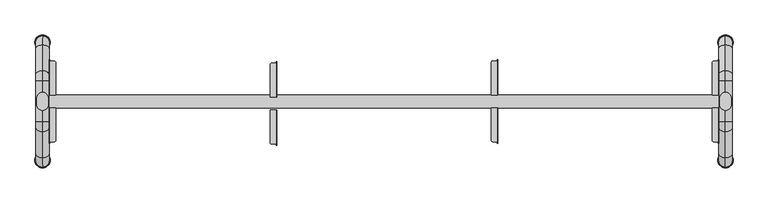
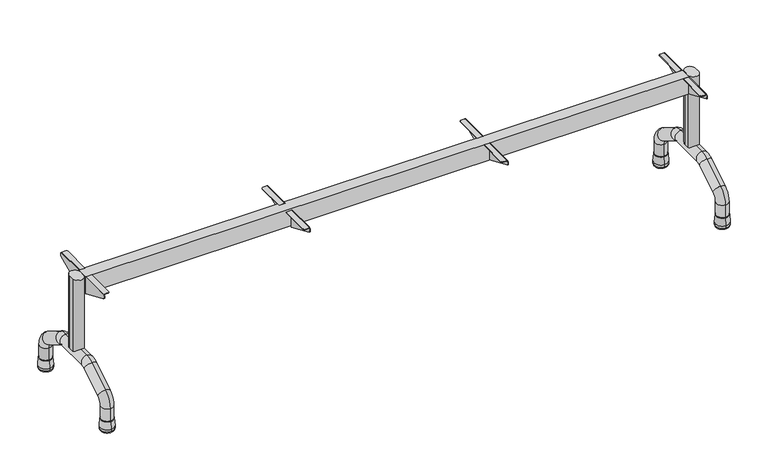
"""IFC4 building model written with IfcOpenShell, lengths in millimetres: furniture geometry, Banco para refeitório : Banco para refeitório 220x30cm cód 40472.6."""

from ifc_helpers import new_model, si_unit, point, frame, frame_2d, origin, place, context, project, spatial, polyline, circle_curve, ellipse_curve, trimmed, segment, composite_curve, outline, extrude, source, transform, mapped, element, save
from ifc_brep_helpers import plane_surface, cylinder_surface, revolved_surface, advanced_brep


def furniture_1bd29a56(model_context):
    return source(origin(), model_context, "Body", "SolidModel", [
        extrude(outline(composite_curve([segment(trimmed(circle_curve(frame_2d((-1040.0, -9.5)), 18.0), [point((-1022.0, -9.5))], [point((-1058.0, -9.5))], False, "CARTESIAN"), True, "CONTINUOUS"), segment(polyline([(-1058.0, -9.5), (-1058.0, 9.5)]), True, "CONTINUOUS"), segment(trimmed(circle_curve(frame_2d((-1040.0, 9.5)), 18.0), [point((-1058.0, 9.5))], [point((-1022.0, 9.5))], False, "CARTESIAN"), True, "CONTINUOUS"), segment(polyline([(-1022.0, 9.5), (-1022.0, -9.5)]), True, "CONTINUOUS")], self_intersect=False)), frame((0.0, 0.0, 175.0), z_axis=(0.0, 0.0, 1.0), x_axis=(1.0, 0.0, 0.0)), (0.0, 0.0, 1.0), 267.0),
        advanced_brep(
        [(-1040.0, -160.0, 43.1183008), (-1040.0, -200.0, 43.1183008), (-1040.0, -160.0, 86.179057), (-1040.0, -200.0, 86.179057), (-1040.0, -171.6393713, 137.1589568), (-1040.0, -150.5464571, 103.1723569), (-1040.0, -71.882227, 151.9932999), (-1040.0, -92.9751412, 185.9798998), (-1040.0, -61.3357699, 195.0), (-1040.0, -61.3357699, 155.0), (-1040.0, 61.3357699, 155.0), (-1040.0, 61.3357699, 195.0), (-1040.0, 160.0, 43.1183008), (-1040.0, 200.0, 43.1183008), (-1040.0, 92.9751412, 185.9798998), (-1040.0, 71.882227, 151.9932999), (-1040.0, 150.5464571, 103.1723569), (-1040.0, 171.6393713, 137.1589568), (-1040.0, 200.0, 86.179057), (-1040.0, 160.0, 86.179057)],
        [
            (0, 1, circle_curve(frame((-1040.0, -180.0, 43.1183008), z_axis=(0.0, 0.0, -1.0), x_axis=(0.0, -1.0, 0.0)), 20.0)),
            (1, 0, circle_curve(frame((-1040.0, -180.0, 43.1183008), z_axis=(0.0, 0.0, -1.0), x_axis=(0.0, -1.0, 0.0)), 20.0)),
            (0, 2),
            (2, 3, circle_curve(frame((-1040.0, -180.0, 86.179057), z_axis=(0.0, 0.0, -1.0), x_axis=(0.0, -1.0, 0.0)), 20.0)),
            (3, 1),
            (3, 2, circle_curve(frame((-1040.0, -180.0, 86.179057), z_axis=(0.0, 0.0, -1.0), x_axis=(0.0, -1.0, 0.0)), 20.0)),
            (4, 5, circle_curve(frame((-1040.0, -161.0929142, 120.1656569), z_axis=(0.0, 0.8496649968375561, 0.5273228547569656), x_axis=(0.0, -0.5273228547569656, 0.8496649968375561)), 20.0)),
            (5, 6),
            (6, 7, circle_curve(frame((-1040.0, -82.4286841, 168.9865999), z_axis=(0.0, -0.8496649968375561, -0.5273228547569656), x_axis=(0.0, -0.5273228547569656, 0.8496649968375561)), 20.0)),
            (7, 4),
            (5, 4, circle_curve(frame((-1040.0, -161.0929142, 120.1656569), z_axis=(0.0, 0.8496649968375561, 0.5273228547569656), x_axis=(0.0, -0.5273228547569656, 0.8496649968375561)), 20.0)),
            (7, 6, circle_curve(frame((-1040.0, -82.4286841, 168.9865999), z_axis=(0.0, -0.8496649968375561, -0.5273228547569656), x_axis=(0.0, -0.5273228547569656, 0.8496649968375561)), 20.0)),
            (8, 9, circle_curve(frame((-1040.0, -61.3357699, 175.0), z_axis=(0.0, 1.0, 0.0), x_axis=(0.0, 0.0, 1.0)), 20.0)),
            (9, 10),
            (10, 11, circle_curve(frame((-1040.0, 61.3357699, 175.0), z_axis=(0.0, -1.0, 0.0), x_axis=(0.0, 0.0, 1.0)), 20.0)),
            (11, 8),
            (9, 8, circle_curve(frame((-1040.0, -61.3357699, 175.0), z_axis=(0.0, 1.0, 0.0), x_axis=(0.0, 0.0, 1.0)), 20.0)),
            (11, 10, circle_curve(frame((-1040.0, 61.3357699, 175.0), z_axis=(0.0, -1.0, 0.0), x_axis=(0.0, 0.0, 1.0)), 20.0)),
            (12, 13, circle_curve(frame((-1040.0, 180.0, 43.1183008), z_axis=(0.0, 0.0, -1.0), x_axis=(0.0, 1.0, 0.0)), 20.0)),
            (13, 12, circle_curve(frame((-1040.0, 180.0, 43.1183008), z_axis=(0.0, 0.0, -1.0), x_axis=(0.0, 1.0, 0.0)), 20.0)),
            (4, 3, circle_curve(frame((-1040.0, -140.0, 86.179057), z_axis=(1.0, 0.0, 0.0), x_axis=(0.0, -1.0, 0.0)), 60.0)),
            (2, 5, circle_curve(frame((-1040.0, -140.0, 86.179057), z_axis=(-1.0, 0.0, 0.0), x_axis=(0.0, -1.0, 0.0)), 20.0)),
            (8, 7, circle_curve(frame((-1040.0, -61.3357699, 135.0), z_axis=(1.0, 0.0, 0.0), x_axis=(0.0, -0.5273228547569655, 0.8496649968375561)), 60.0)),
            (6, 9, circle_curve(frame((-1040.0, -61.3357699, 135.0), z_axis=(-1.0, 0.0, 0.0), x_axis=(0.0, -0.5273228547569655, 0.8496649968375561)), 20.0)),
            (14, 11, circle_curve(frame((-1040.0, 61.3357699, 135.0), z_axis=(1.0, 0.0, 0.0), x_axis=(0.0, 0.0, 1.0)), 60.0)),
            (10, 15, circle_curve(frame((-1040.0, 61.3357699, 135.0), z_axis=(-1.0, 0.0, 0.0), x_axis=(0.0, 0.0, 1.0)), 20.0)),
            (15, 14, circle_curve(frame((-1040.0, 82.4286841, 168.9865999), z_axis=(0.0, -0.8496649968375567, 0.5273228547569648), x_axis=(0.0, 0.5273228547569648, 0.8496649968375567)), 20.0)),
            (14, 15, circle_curve(frame((-1040.0, 82.4286841, 168.9865999), z_axis=(0.0, -0.8496649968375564, 0.5273228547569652), x_axis=(0.0, 0.5273228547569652, 0.8496649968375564)), 20.0)),
            (15, 16),
            (16, 17, circle_curve(frame((-1040.0, 161.0929142, 120.1656569), z_axis=(0.0, -0.849664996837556, 0.5273228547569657), x_axis=(0.0, 0.5273228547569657, 0.849664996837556)), 20.0)),
            (17, 14),
            (17, 16, circle_curve(frame((-1040.0, 161.0929142, 120.1656569), z_axis=(0.0, -0.849664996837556, 0.5273228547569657), x_axis=(0.0, 0.5273228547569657, 0.849664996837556)), 20.0)),
            (18, 17, circle_curve(frame((-1040.0, 140.0, 86.179057), z_axis=(1.0, 0.0, 0.0), x_axis=(0.0, 0.5273228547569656, 0.849664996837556)), 60.0)),
            (16, 19, circle_curve(frame((-1040.0, 140.0, 86.179057), z_axis=(-1.0, 0.0, 0.0), x_axis=(0.0, 0.5273228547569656, 0.849664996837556)), 20.0)),
            (19, 18, circle_curve(frame((-1040.0, 180.0, 86.179057), z_axis=(0.0, 0.0, 1.0), x_axis=(0.0, 1.0, 0.0)), 20.0)),
            (18, 19, circle_curve(frame((-1040.0, 180.0, 86.179057), z_axis=(0.0, 0.0, 1.0), x_axis=(0.0, 1.0, 0.0)), 20.0)),
            (19, 12),
            (13, 18),
        ],
        [
            plane_surface(frame((-1730.0, -180.0, 43.1183008), z_axis=(0.0, 0.0, -1.0), x_axis=(1.0, 0.0, 0.0))),
            cylinder_surface(frame((-1040.0, -180.0, 43.1183008), z_axis=(0.0, 0.0, -1.0), x_axis=(0.0, -1.0, 0.0)), 20.0),
            cylinder_surface(frame((-1040.0, -161.0929142, 120.1656569), z_axis=(0.0, -0.8496649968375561, -0.5273228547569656), x_axis=(0.0, -0.5273228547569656, 0.8496649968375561)), 20.0),
            cylinder_surface(frame((-1040.0, -61.3357699, 175.0), z_axis=(0.0, -1.0, 0.0), x_axis=(0.0, 0.0, 1.0)), 20.0),
            plane_surface(frame((-1730.0, 180.0, 43.1183008), z_axis=(0.0, 0.0, -1.0), x_axis=(1.0, 0.0, 0.0))),
            revolved_surface(trimmed(ellipse_curve(frame((-1040.0, -180.0, 86.179057), z_axis=(0.0, 0.0, -1.0), x_axis=(0.0, -1.0, 0.0)), 20.0, 20.0), [point((-1040.0, -160.0, 86.179057))], [point((-1040.0, -200.0, 86.179057))], True, "CARTESIAN"), (-1730.0, -140.0, 86.179057), (-1.0, 0.0, 0.0)),
            revolved_surface(trimmed(ellipse_curve(frame((-1040.0, -180.0, 86.179057), z_axis=(0.0, 0.0, -1.0), x_axis=(0.0, -1.0, 0.0)), 20.0, 20.0), [point((-1040.0, -200.0, 86.179057))], [point((-1040.0, -160.0, 86.179057))], True, "CARTESIAN"), (-1730.0, -140.0, 86.179057), (-1.0, 0.0, 0.0)),
            revolved_surface(trimmed(ellipse_curve(frame((-1040.0, -82.4286841, 168.9865999), z_axis=(0.0, -0.8496649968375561, -0.5273228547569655), x_axis=(0.0, -0.5273228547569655, 0.8496649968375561)), 20.0, 20.0), [point((-1040.0, -71.882227, 151.9932999))], [point((-1040.0, -92.9751412, 185.9798998))], True, "CARTESIAN"), (-1730.0, -61.3357699, 135.0), (-1.0, 0.0, 0.0)),
            revolved_surface(trimmed(ellipse_curve(frame((-1040.0, -82.4286841, 168.9865999), z_axis=(0.0, -0.8496649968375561, -0.5273228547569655), x_axis=(0.0, -0.5273228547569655, 0.8496649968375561)), 20.0, 20.0), [point((-1040.0, -92.9751412, 185.9798998))], [point((-1040.0, -71.882227, 151.9932999))], True, "CARTESIAN"), (-1730.0, -61.3357699, 135.0), (-1.0, 0.0, 0.0)),
            revolved_surface(trimmed(ellipse_curve(frame((-1040.0, 61.3357699, 175.0), z_axis=(0.0, -1.0, 0.0), x_axis=(0.0, 0.0, 1.0)), 20.0, 20.0), [point((-1040.0, 61.3357699, 155.0))], [point((-1040.0, 61.3357699, 195.0))], True, "CARTESIAN"), (-1730.0, 61.3357699, 135.0), (-1.0, 0.0, 0.0)),
            revolved_surface(trimmed(ellipse_curve(frame((-1040.0, 61.3357699, 175.0), z_axis=(0.0, -1.0, 0.0), x_axis=(0.0, 0.0, 1.0)), 20.0, 20.0), [point((-1040.0, 61.3357699, 195.0))], [point((-1040.0, 61.3357699, 155.0))], True, "CARTESIAN"), (-1730.0, 61.3357699, 135.0), (-1.0, 0.0, 0.0)),
            cylinder_surface(frame((-1040.0, 82.4286841, 168.9865999), z_axis=(0.0, -0.849664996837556, 0.5273228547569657), x_axis=(0.0, 0.5273228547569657, 0.849664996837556)), 20.0),
            revolved_surface(trimmed(ellipse_curve(frame((-1040.0, 161.0929142, 120.1656569), z_axis=(0.0, -0.8496649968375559, 0.5273228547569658), x_axis=(0.0, 0.5273228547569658, 0.8496649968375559)), 20.0, 20.0), [point((-1040.0, 150.5464571, 103.1723569))], [point((-1040.0, 171.6393713, 137.1589568))], True, "CARTESIAN"), (-1730.0, 140.0, 86.179057), (-1.0, 0.0, 0.0)),
            revolved_surface(trimmed(ellipse_curve(frame((-1040.0, 161.0929142, 120.1656569), z_axis=(0.0, -0.8496649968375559, 0.5273228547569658), x_axis=(0.0, 0.5273228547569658, 0.8496649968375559)), 20.0, 20.0), [point((-1040.0, 171.6393713, 137.1589568))], [point((-1040.0, 150.5464571, 103.1723569))], True, "CARTESIAN"), (-1730.0, 140.0, 86.179057), (-1.0, 0.0, 0.0)),
            cylinder_surface(frame((-1040.0, 180.0, 86.179057), z_axis=(0.0, 0.0, 1.0), x_axis=(0.0, 1.0, 0.0)), 20.0),
        ],
        [
            (0, [[1, 2]]),
            (1, [[-1, 3, 4, 5]]),
            (1, [[-2, -5, 6, -3]]),
            (2, [[7, 8, 9, 10]]),
            (2, [[11, -10, 12, -8]]),
            (3, [[13, 14, 15, 16]]),
            (3, [[17, -16, 18, -14]]),
            (4, [[19, 20]]),
            (5, [[21, -4, 22, -7]]),
            (6, [[-22, -6, -21, -11]]),
            (7, [[23, -9, 24, -13]]),
            (8, [[-24, -12, -23, -17]]),
            (9, [[25, -15, 26, 27]]),
            (10, [[-26, -18, -25, 28]]),
            (11, [[-27, 29, 30, 31]]),
            (11, [[-28, -31, 32, -29]]),
            (12, [[33, -30, 34, 35]]),
            (13, [[-34, -32, -33, 36]]),
            (14, [[-35, 37, -20, 38]]),
            (14, [[-36, -38, -19, -37]]),
        ],
    ),
        extrude(outline(composite_curve([segment(trimmed(circle_curve(frame_2d((1040.0, -9.5)), 18.0), [point((1058.0, -9.5))], [point((1022.0, -9.5))], False, "CARTESIAN"), True, "CONTINUOUS"), segment(polyline([(1022.0, -9.5), (1022.0, 9.5)]), True, "CONTINUOUS"), segment(trimmed(circle_curve(frame_2d((1040.0, 9.5)), 18.0), [point((1022.0, 9.5))], [point((1058.0, 9.5))], False, "CARTESIAN"), True, "CONTINUOUS"), segment(polyline([(1058.0, 9.5), (1058.0, -9.5)]), True, "CONTINUOUS")], self_intersect=False)), frame((0.0, 0.0, 175.0), z_axis=(0.0, 0.0, 1.0), x_axis=(1.0, 0.0, 0.0)), (0.0, 0.0, 1.0), 267.0),
        advanced_brep(
        [(1040.0, -160.0, 43.1183008), (1040.0, -200.0, 43.1183008), (1040.0, -160.0, 86.179057), (1040.0, -200.0, 86.179057), (1040.0, -171.6393713, 137.1589568), (1040.0, -150.5464571, 103.1723569), (1040.0, -71.882227, 151.9932999), (1040.0, -92.9751412, 185.9798998), (1040.0, -61.3357699, 195.0), (1040.0, -61.3357699, 155.0), (1040.0, 61.3357699, 155.0), (1040.0, 61.3357699, 195.0), (1040.0, 160.0, 43.1183008), (1040.0, 200.0, 43.1183008), (1040.0, 92.9751412, 185.9798998), (1040.0, 71.882227, 151.9932999), (1040.0, 150.5464571, 103.1723569), (1040.0, 171.6393713, 137.1589568), (1040.0, 200.0, 86.179057), (1040.0, 160.0, 86.179057)],
        [
            (0, 1, circle_curve(frame((1040.0, -180.0, 43.1183008), z_axis=(0.0, 0.0, -1.0), x_axis=(0.0, -1.0, 0.0)), 20.0)),
            (1, 0, circle_curve(frame((1040.0, -180.0, 43.1183008), z_axis=(0.0, 0.0, -1.0), x_axis=(0.0, -1.0, 0.0)), 20.0)),
            (0, 2),
            (2, 3, circle_curve(frame((1040.0, -180.0, 86.179057), z_axis=(0.0, 0.0, -1.0), x_axis=(0.0, -1.0, 0.0)), 20.0)),
            (3, 1),
            (3, 2, circle_curve(frame((1040.0, -180.0, 86.179057), z_axis=(0.0, 0.0, -1.0), x_axis=(0.0, -1.0, 0.0)), 20.0)),
            (4, 5, circle_curve(frame((1040.0, -161.0929142, 120.1656569), z_axis=(0.0, 0.8496649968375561, 0.5273228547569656), x_axis=(0.0, -0.5273228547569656, 0.8496649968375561)), 20.0)),
            (5, 6),
            (6, 7, circle_curve(frame((1040.0, -82.4286841, 168.9865999), z_axis=(0.0, -0.8496649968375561, -0.5273228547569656), x_axis=(0.0, -0.5273228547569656, 0.8496649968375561)), 20.0)),
            (7, 4),
            (5, 4, circle_curve(frame((1040.0, -161.0929142, 120.1656569), z_axis=(0.0, 0.8496649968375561, 0.5273228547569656), x_axis=(0.0, -0.5273228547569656, 0.8496649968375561)), 20.0)),
            (7, 6, circle_curve(frame((1040.0, -82.4286841, 168.9865999), z_axis=(0.0, -0.8496649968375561, -0.5273228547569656), x_axis=(0.0, -0.5273228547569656, 0.8496649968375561)), 20.0)),
            (8, 9, circle_curve(frame((1040.0, -61.3357699, 175.0), z_axis=(0.0, 1.0, 0.0), x_axis=(0.0, 0.0, 1.0)), 20.0)),
            (9, 10),
            (10, 11, circle_curve(frame((1040.0, 61.3357699, 175.0), z_axis=(0.0, -1.0, 0.0), x_axis=(0.0, 0.0, 1.0)), 20.0)),
            (11, 8),
            (9, 8, circle_curve(frame((1040.0, -61.3357699, 175.0), z_axis=(0.0, 1.0, 0.0), x_axis=(0.0, 0.0, 1.0)), 20.0)),
            (11, 10, circle_curve(frame((1040.0, 61.3357699, 175.0), z_axis=(0.0, -1.0, 0.0), x_axis=(0.0, 0.0, 1.0)), 20.0)),
            (12, 13, circle_curve(frame((1040.0, 180.0, 43.1183008), z_axis=(0.0, 0.0, -1.0), x_axis=(0.0, 1.0, 0.0)), 20.0)),
            (13, 12, circle_curve(frame((1040.0, 180.0, 43.1183008), z_axis=(0.0, 0.0, -1.0), x_axis=(0.0, 1.0, 0.0)), 20.0)),
            (4, 3, circle_curve(frame((1040.0, -140.0, 86.179057), z_axis=(1.0, 0.0, 0.0), x_axis=(0.0, -1.0, 0.0)), 60.0)),
            (2, 5, circle_curve(frame((1040.0, -140.0, 86.179057), z_axis=(-1.0, 0.0, 0.0), x_axis=(0.0, -1.0, 0.0)), 20.0)),
            (8, 7, circle_curve(frame((1040.0, -61.3357699, 135.0), z_axis=(1.0, 0.0, 0.0), x_axis=(0.0, -0.5273228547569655, 0.8496649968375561)), 60.0)),
            (6, 9, circle_curve(frame((1040.0, -61.3357699, 135.0), z_axis=(-1.0, 0.0, 0.0), x_axis=(0.0, -0.5273228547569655, 0.8496649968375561)), 20.0)),
            (14, 11, circle_curve(frame((1040.0, 61.3357699, 135.0), z_axis=(1.0, 0.0, 0.0), x_axis=(0.0, 0.0, 1.0)), 60.0)),
            (10, 15, circle_curve(frame((1040.0, 61.3357699, 135.0), z_axis=(-1.0, 0.0, 0.0), x_axis=(0.0, 0.0, 1.0)), 20.0)),
            (15, 14, circle_curve(frame((1040.0, 82.4286841, 168.9865999), z_axis=(0.0, -0.8496649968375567, 0.5273228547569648), x_axis=(0.0, 0.5273228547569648, 0.8496649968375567)), 20.0)),
            (14, 15, circle_curve(frame((1040.0, 82.4286841, 168.9865999), z_axis=(0.0, -0.8496649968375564, 0.5273228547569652), x_axis=(0.0, 0.5273228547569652, 0.8496649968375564)), 20.0)),
            (15, 16),
            (16, 17, circle_curve(frame((1040.0, 161.0929142, 120.1656569), z_axis=(0.0, -0.849664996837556, 0.5273228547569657), x_axis=(0.0, 0.5273228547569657, 0.849664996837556)), 20.0)),
            (17, 14),
            (17, 16, circle_curve(frame((1040.0, 161.0929142, 120.1656569), z_axis=(0.0, -0.849664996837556, 0.5273228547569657), x_axis=(0.0, 0.5273228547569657, 0.849664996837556)), 20.0)),
            (18, 17, circle_curve(frame((1040.0, 140.0, 86.179057), z_axis=(1.0, 0.0, 0.0), x_axis=(0.0, 0.5273228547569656, 0.849664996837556)), 60.0)),
            (16, 19, circle_curve(frame((1040.0, 140.0, 86.179057), z_axis=(-1.0, 0.0, 0.0), x_axis=(0.0, 0.5273228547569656, 0.849664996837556)), 20.0)),
            (19, 18, circle_curve(frame((1040.0, 180.0, 86.179057), z_axis=(0.0, 0.0, 1.0), x_axis=(0.0, 1.0, 0.0)), 20.0)),
            (18, 19, circle_curve(frame((1040.0, 180.0, 86.179057), z_axis=(0.0, 0.0, 1.0), x_axis=(0.0, 1.0, 0.0)), 20.0)),
            (19, 12),
            (13, 18),
        ],
        [
            plane_surface(frame((350.0, -180.0, 43.1183008), z_axis=(0.0, 0.0, -1.0), x_axis=(1.0, 0.0, 0.0))),
            cylinder_surface(frame((1040.0, -180.0, 43.1183008), z_axis=(0.0, 0.0, -1.0), x_axis=(0.0, -1.0, 0.0)), 20.0),
            cylinder_surface(frame((1040.0, -161.0929142, 120.1656569), z_axis=(0.0, -0.8496649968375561, -0.5273228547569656), x_axis=(0.0, -0.5273228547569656, 0.8496649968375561)), 20.0),
            cylinder_surface(frame((1040.0, -61.3357699, 175.0), z_axis=(0.0, -1.0, 0.0), x_axis=(0.0, 0.0, 1.0)), 20.0),
            plane_surface(frame((350.0, 180.0, 43.1183008), z_axis=(0.0, 0.0, -1.0), x_axis=(1.0, 0.0, 0.0))),
            revolved_surface(trimmed(ellipse_curve(frame((1040.0, -180.0, 86.179057), z_axis=(0.0, 0.0, -1.0), x_axis=(0.0, -1.0, 0.0)), 20.0, 20.0), [point((1040.0, -160.0, 86.179057))], [point((1040.0, -200.0, 86.179057))], True, "CARTESIAN"), (350.0, -140.0, 86.179057), (-1.0, 0.0, 0.0)),
            revolved_surface(trimmed(ellipse_curve(frame((1040.0, -180.0, 86.179057), z_axis=(0.0, 0.0, -1.0), x_axis=(0.0, -1.0, 0.0)), 20.0, 20.0), [point((1040.0, -200.0, 86.179057))], [point((1040.0, -160.0, 86.179057))], True, "CARTESIAN"), (350.0, -140.0, 86.179057), (-1.0, 0.0, 0.0)),
            revolved_surface(trimmed(ellipse_curve(frame((1040.0, -82.4286841, 168.9865999), z_axis=(0.0, -0.8496649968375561, -0.5273228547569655), x_axis=(0.0, -0.5273228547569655, 0.8496649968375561)), 20.0, 20.0), [point((1040.0, -71.882227, 151.9932999))], [point((1040.0, -92.9751412, 185.9798998))], True, "CARTESIAN"), (350.0, -61.3357699, 135.0), (-1.0, 0.0, 0.0)),
            revolved_surface(trimmed(ellipse_curve(frame((1040.0, -82.4286841, 168.9865999), z_axis=(0.0, -0.8496649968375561, -0.5273228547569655), x_axis=(0.0, -0.5273228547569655, 0.8496649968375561)), 20.0, 20.0), [point((1040.0, -92.9751412, 185.9798998))], [point((1040.0, -71.882227, 151.9932999))], True, "CARTESIAN"), (350.0, -61.3357699, 135.0), (-1.0, 0.0, 0.0)),
            revolved_surface(trimmed(ellipse_curve(frame((1040.0, 61.3357699, 175.0), z_axis=(0.0, -1.0, 0.0), x_axis=(0.0, 0.0, 1.0)), 20.0, 20.0), [point((1040.0, 61.3357699, 155.0))], [point((1040.0, 61.3357699, 195.0))], True, "CARTESIAN"), (350.0, 61.3357699, 135.0), (-1.0, 0.0, 0.0)),
            revolved_surface(trimmed(ellipse_curve(frame((1040.0, 61.3357699, 175.0), z_axis=(0.0, -1.0, 0.0), x_axis=(0.0, 0.0, 1.0)), 20.0, 20.0), [point((1040.0, 61.3357699, 195.0))], [point((1040.0, 61.3357699, 155.0))], True, "CARTESIAN"), (350.0, 61.3357699, 135.0), (-1.0, 0.0, 0.0)),
            cylinder_surface(frame((1040.0, 82.4286841, 168.9865999), z_axis=(0.0, -0.849664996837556, 0.5273228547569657), x_axis=(0.0, 0.5273228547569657, 0.849664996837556)), 20.0),
            revolved_surface(trimmed(ellipse_curve(frame((1040.0, 161.0929142, 120.1656569), z_axis=(0.0, -0.8496649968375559, 0.5273228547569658), x_axis=(0.0, 0.5273228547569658, 0.8496649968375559)), 20.0, 20.0), [point((1040.0, 150.5464571, 103.1723569))], [point((1040.0, 171.6393713, 137.1589568))], True, "CARTESIAN"), (350.0, 140.0, 86.179057), (-1.0, 0.0, 0.0)),
            revolved_surface(trimmed(ellipse_curve(frame((1040.0, 161.0929142, 120.1656569), z_axis=(0.0, -0.8496649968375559, 0.5273228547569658), x_axis=(0.0, 0.5273228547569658, 0.8496649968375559)), 20.0, 20.0), [point((1040.0, 171.6393713, 137.1589568))], [point((1040.0, 150.5464571, 103.1723569))], True, "CARTESIAN"), (350.0, 140.0, 86.179057), (-1.0, 0.0, 0.0)),
            cylinder_surface(frame((1040.0, 180.0, 86.179057), z_axis=(0.0, 0.0, 1.0), x_axis=(0.0, 1.0, 0.0)), 20.0),
        ],
        [
            (0, [[1, 2]]),
            (1, [[-1, 3, 4, 5]]),
            (1, [[-2, -5, 6, -3]]),
            (2, [[7, 8, 9, 10]]),
            (2, [[11, -10, 12, -8]]),
            (3, [[13, 14, 15, 16]]),
            (3, [[17, -16, 18, -14]]),
            (4, [[19, 20]]),
            (5, [[21, -4, 22, -7]]),
            (6, [[-22, -6, -21, -11]]),
            (7, [[23, -9, 24, -13]]),
            (8, [[-24, -12, -23, -17]]),
            (9, [[25, -15, 26, 27]]),
            (10, [[-26, -18, -25, 28]]),
            (11, [[-27, 29, 30, 31]]),
            (11, [[-28, -31, 32, -29]]),
            (12, [[33, -30, 34, 35]]),
            (13, [[-34, -32, -33, 36]]),
            (14, [[-35, 37, -20, 38]]),
            (14, [[-36, -38, -19, -37]]),
        ],
    ),
        advanced_brep(
        [(-1040.0, 200.5839249, 42.9792915), (-1040.0, 201.212521, 42.3931162), (-1040.0, 158.787479, 42.3931162), (-1040.0, 159.4160751, 42.9792915), (-1040.0, 203.125, 15.0433923), (-1040.0, 156.875, 15.0433923), (-1040.0, 203.125, 7.2213749), (-1040.0, 156.875, 7.2213749), (-1040.0, 196.0093092, 0.1056841), (-1040.0, 163.9906908, 0.1056841), (-1040.0, 180.0, 0.1056841), (-1040.0, 180.0, 42.9792915)],
        [
            (0, 1, circle_curve(frame((-1040.0, 200.5839249, 42.3491605), z_axis=(-1.0, 0.0, 0.0), x_axis=(0.0, -1.0, 0.0)), 0.630131)),
            (1, 2, circle_curve(frame((-1040.0, 180.0, 42.3931162), z_axis=(0.0, 0.0, 1.0), x_axis=(0.0, -1.0, 0.0)), 21.212521)),
            (2, 3, circle_curve(frame((-1040.0, 159.4160751, 42.3491605), z_axis=(-1.0, 0.0, 0.0), x_axis=(0.0, 1.0, 0.0)), 0.630131)),
            (3, 0, circle_curve(frame((-1040.0, 180.0, 42.9792915), z_axis=(0.0, 0.0, -1.0), x_axis=(0.0, -1.0, 0.0)), 20.5839249)),
            (2, 1, circle_curve(frame((-1040.0, 180.0, 42.3931162), z_axis=(0.0, 0.0, 1.0), x_axis=(0.0, -1.0, 0.0)), 21.212521)),
            (0, 3, circle_curve(frame((-1040.0, 180.0, 42.9792915), z_axis=(0.0, 0.0, -1.0), x_axis=(0.0, -1.0, 0.0)), 20.5839249)),
            (1, 4),
            (4, 5, circle_curve(frame((-1040.0, 180.0, 15.0433923), z_axis=(0.0, 0.0, 1.0), x_axis=(0.0, -1.0, 0.0)), 23.125)),
            (5, 2),
            (5, 4, circle_curve(frame((-1040.0, 180.0, 15.0433923), z_axis=(0.0, 0.0, 1.0), x_axis=(0.0, -1.0, 0.0)), 23.125)),
            (4, 6),
            (6, 7, circle_curve(frame((-1040.0, 180.0, 7.2213749), z_axis=(0.0, 0.0, 1.0), x_axis=(0.0, -1.0, 0.0)), 23.125)),
            (7, 5),
            (7, 6, circle_curve(frame((-1040.0, 180.0, 7.2213749), z_axis=(0.0, 0.0, 1.0), x_axis=(0.0, -1.0, 0.0)), 23.125)),
            (6, 8, circle_curve(frame((-1040.0, 196.0093092, 7.2213749), z_axis=(-1.0, 0.0, 0.0), x_axis=(0.0, -1.0, 0.0)), 7.1156908)),
            (8, 9, circle_curve(frame((-1040.0, 180.0, 0.1056841), z_axis=(0.0, 0.0, 1.0), x_axis=(0.0, -1.0, 0.0)), 16.0093092)),
            (9, 7, circle_curve(frame((-1040.0, 163.9906908, 7.2213749), z_axis=(-1.0, 0.0, 0.0), x_axis=(0.0, 1.0, 0.0)), 7.1156908)),
            (9, 8, circle_curve(frame((-1040.0, 180.0, 0.1056841), z_axis=(0.0, 0.0, 1.0), x_axis=(0.0, -1.0, 0.0)), 16.0093092)),
            (8, 10),
            (10, 9),
            (11, 0),
            (3, 11),
        ],
        [
            revolved_surface(trimmed(ellipse_curve(frame((-1040.0, 159.4160751, 42.3491605), z_axis=(-1.0, 0.0, 0.0), x_axis=(0.0, 1.0, 0.0)), 0.630131, 0.630131), [point((-1040.0, 158.787479, 42.3931162))], [point((-1040.0, 159.4160751, 42.9792915))], True, "CARTESIAN"), (-1040.0, 180.0, 0.1056841), (0.0, 0.0, 1.0)),
            revolved_surface(polyline([(-1040.0, 156.875, 15.0433923), (-1040.0, 158.787479, 42.3931162)]), (-1040.0, 180.0, 0.1056841), (0.0, 0.0, 1.0)),
            cylinder_surface(frame((-1040.0, 180.0, 0.1056841), z_axis=(0.0, 0.0, 1.0), x_axis=(0.0, -1.0, 0.0)), 23.125),
            revolved_surface(trimmed(ellipse_curve(frame((-1040.0, 163.9906908, 7.2213749), z_axis=(-1.0, 0.0, 0.0), x_axis=(0.0, 1.0, 0.0)), 7.1156908, 7.1156908), [point((-1040.0, 163.9906908, 0.1056841))], [point((-1040.0, 156.875, 7.2213749))], True, "CARTESIAN"), (-1040.0, 180.0, 0.1056841), (0.0, 0.0, 1.0)),
            plane_surface(frame((-1040.0, 180.0, 0.1056841), z_axis=(0.0, 0.0, -1.0), x_axis=(0.0, -1.0, 0.0))),
            plane_surface(frame((-1040.0, 180.0, 42.9792915), z_axis=(0.0, 0.0, 1.0), x_axis=(0.0, -1.0, 0.0))),
        ],
        [
            (0, [[1, 2, 3, 4]]),
            (0, [[-3, 5, -1, 6]]),
            (1, [[7, 8, 9, -2]]),
            (1, [[-9, 10, -7, -5]]),
            (2, [[11, 12, 13, -8]]),
            (2, [[-13, 14, -11, -10]]),
            (3, [[15, 16, 17, -12]]),
            (3, [[-17, 18, -15, -14]]),
            (4, [[19, 20, -16]]),
            (4, [[-20, -19, -18]]),
            (5, [[21, -4, 22]]),
            (5, [[-22, -6, -21]]),
        ],
    ),
        advanced_brep(
        [(-1040.0, -159.4160751, 42.9792915), (-1040.0, -158.787479, 42.3931162), (-1040.0, -201.212521, 42.3931162), (-1040.0, -200.5839249, 42.9792915), (-1040.0, -156.875, 15.0433923), (-1040.0, -203.125, 15.0433923), (-1040.0, -156.875, 7.2213749), (-1040.0, -203.125, 7.2213749), (-1040.0, -163.9906908, 0.1056841), (-1040.0, -196.0093092, 0.1056841), (-1040.0, -180.0, 0.1056841), (-1040.0, -180.0, 42.9792915)],
        [
            (0, 1, circle_curve(frame((-1040.0, -159.4160751, 42.3491605), z_axis=(-1.0, 0.0, 0.0), x_axis=(0.0, -1.0, 0.0)), 0.630131)),
            (1, 2, circle_curve(frame((-1040.0, -180.0, 42.3931162), z_axis=(0.0, 0.0, 1.0), x_axis=(0.0, -1.0, 0.0)), 21.212521)),
            (2, 3, circle_curve(frame((-1040.0, -200.5839249, 42.3491605), z_axis=(-1.0, 0.0, 0.0), x_axis=(0.0, 1.0, 0.0)), 0.630131)),
            (3, 0, circle_curve(frame((-1040.0, -180.0, 42.9792915), z_axis=(0.0, 0.0, -1.0), x_axis=(0.0, -1.0, 0.0)), 20.5839249)),
            (2, 1, circle_curve(frame((-1040.0, -180.0, 42.3931162), z_axis=(0.0, 0.0, 1.0), x_axis=(0.0, -1.0, 0.0)), 21.212521)),
            (0, 3, circle_curve(frame((-1040.0, -180.0, 42.9792915), z_axis=(0.0, 0.0, -1.0), x_axis=(0.0, -1.0, 0.0)), 20.5839249)),
            (1, 4),
            (4, 5, circle_curve(frame((-1040.0, -180.0, 15.0433923), z_axis=(0.0, 0.0, 1.0), x_axis=(0.0, -1.0, 0.0)), 23.125)),
            (5, 2),
            (5, 4, circle_curve(frame((-1040.0, -180.0, 15.0433923), z_axis=(0.0, 0.0, 1.0), x_axis=(0.0, -1.0, 0.0)), 23.125)),
            (4, 6),
            (6, 7, circle_curve(frame((-1040.0, -180.0, 7.2213749), z_axis=(0.0, 0.0, 1.0), x_axis=(0.0, -1.0, 0.0)), 23.125)),
            (7, 5),
            (7, 6, circle_curve(frame((-1040.0, -180.0, 7.2213749), z_axis=(0.0, 0.0, 1.0), x_axis=(0.0, -1.0, 0.0)), 23.125)),
            (6, 8, circle_curve(frame((-1040.0, -163.9906908, 7.2213749), z_axis=(-1.0, 0.0, 0.0), x_axis=(0.0, -1.0, 0.0)), 7.1156908)),
            (8, 9, circle_curve(frame((-1040.0, -180.0, 0.1056841), z_axis=(0.0, 0.0, 1.0), x_axis=(0.0, -1.0, 0.0)), 16.0093092)),
            (9, 7, circle_curve(frame((-1040.0, -196.0093092, 7.2213749), z_axis=(-1.0, 0.0, 0.0), x_axis=(0.0, 1.0, 0.0)), 7.1156908)),
            (9, 8, circle_curve(frame((-1040.0, -180.0, 0.1056841), z_axis=(0.0, 0.0, 1.0), x_axis=(0.0, -1.0, 0.0)), 16.0093092)),
            (8, 10),
            (10, 9),
            (11, 0),
            (3, 11),
        ],
        [
            revolved_surface(trimmed(ellipse_curve(frame((-1040.0, -200.5839249, 42.3491605), z_axis=(-1.0, 0.0, 0.0), x_axis=(0.0, 1.0, 0.0)), 0.630131, 0.630131), [point((-1040.0, -201.212521, 42.3931162))], [point((-1040.0, -200.5839249, 42.9792915))], True, "CARTESIAN"), (-1040.0, -180.0, 0.1056841), (0.0, 0.0, 1.0)),
            revolved_surface(polyline([(-1040.0, -203.125, 15.0433923), (-1040.0, -201.212521, 42.3931162)]), (-1040.0, -180.0, 0.1056841), (0.0, 0.0, 1.0)),
            cylinder_surface(frame((-1040.0, -180.0, 0.1056841), z_axis=(0.0, 0.0, 1.0), x_axis=(0.0, -1.0, 0.0)), 23.125),
            revolved_surface(trimmed(ellipse_curve(frame((-1040.0, -196.0093092, 7.2213749), z_axis=(-1.0, 0.0, 0.0), x_axis=(0.0, 1.0, 0.0)), 7.1156908, 7.1156908), [point((-1040.0, -196.0093092, 0.1056841))], [point((-1040.0, -203.125, 7.2213749))], True, "CARTESIAN"), (-1040.0, -180.0, 0.1056841), (0.0, 0.0, 1.0)),
            plane_surface(frame((-1040.0, -180.0, 0.1056841), z_axis=(0.0, 0.0, -1.0), x_axis=(0.0, -1.0, 0.0))),
            plane_surface(frame((-1040.0, -180.0, 42.9792915), z_axis=(0.0, 0.0, 1.0), x_axis=(0.0, -1.0, 0.0))),
        ],
        [
            (0, [[1, 2, 3, 4]]),
            (0, [[-3, 5, -1, 6]]),
            (1, [[7, 8, 9, -2]]),
            (1, [[-9, 10, -7, -5]]),
            (2, [[11, 12, 13, -8]]),
            (2, [[-13, 14, -11, -10]]),
            (3, [[15, 16, 17, -12]]),
            (3, [[-17, 18, -15, -14]]),
            (4, [[19, 20, -16]]),
            (4, [[-20, -19, -18]]),
            (5, [[21, -4, 22]]),
            (5, [[-22, -6, -21]]),
        ],
    ),
        advanced_brep(
        [(1040.0, 200.5839249, 42.9792915), (1040.0, 159.4160751, 42.9792915), (1040.0, 158.787479, 42.3931162), (1040.0, 201.212521, 42.3931162), (1040.0, 156.875, 15.0433923), (1040.0, 203.125, 15.0433923), (1040.0, 156.875, 7.2213749), (1040.0, 203.125, 7.2213749), (1040.0, 163.9906908, 0.1056841), (1040.0, 196.0093092, 0.1056841), (1040.0, 180.0, 0.1056841), (1040.0, 180.0, 42.9792915)],
        [
            (0, 1, circle_curve(frame((1040.0, 180.0, 42.9792915), z_axis=(0.0, 0.0, -1.0), x_axis=(0.0, -1.0, 0.0)), 20.5839249)),
            (1, 2, circle_curve(frame((1040.0, 159.4160751, 42.3491605), z_axis=(1.0, 0.0, 0.0), x_axis=(0.0, 1.0, 0.0)), 0.630131)),
            (2, 3, circle_curve(frame((1040.0, 180.0, 42.3931162), z_axis=(0.0, 0.0, 1.0), x_axis=(0.0, -1.0, 0.0)), 21.212521)),
            (3, 0, circle_curve(frame((1040.0, 200.5839249, 42.3491605), z_axis=(1.0, 0.0, 0.0), x_axis=(0.0, -1.0, 0.0)), 0.630131)),
            (1, 0, circle_curve(frame((1040.0, 180.0, 42.9792915), z_axis=(0.0, 0.0, -1.0), x_axis=(0.0, -1.0, 0.0)), 20.5839249)),
            (3, 2, circle_curve(frame((1040.0, 180.0, 42.3931162), z_axis=(0.0, 0.0, 1.0), x_axis=(0.0, -1.0, 0.0)), 21.212521)),
            (2, 4),
            (4, 5, circle_curve(frame((1040.0, 180.0, 15.0433923), z_axis=(0.0, 0.0, 1.0), x_axis=(0.0, -1.0, 0.0)), 23.125)),
            (5, 3),
            (5, 4, circle_curve(frame((1040.0, 180.0, 15.0433923), z_axis=(0.0, 0.0, 1.0), x_axis=(0.0, -1.0, 0.0)), 23.125)),
            (4, 6),
            (6, 7, circle_curve(frame((1040.0, 180.0, 7.2213749), z_axis=(0.0, 0.0, 1.0), x_axis=(0.0, -1.0, 0.0)), 23.125)),
            (7, 5),
            (7, 6, circle_curve(frame((1040.0, 180.0, 7.2213749), z_axis=(0.0, 0.0, 1.0), x_axis=(0.0, -1.0, 0.0)), 23.125)),
            (6, 8, circle_curve(frame((1040.0, 163.9906908, 7.2213749), z_axis=(1.0, 0.0, 0.0), x_axis=(0.0, 1.0, 0.0)), 7.1156908)),
            (8, 9, circle_curve(frame((1040.0, 180.0, 0.1056841), z_axis=(0.0, 0.0, 1.0), x_axis=(0.0, -1.0, 0.0)), 16.0093092)),
            (9, 7, circle_curve(frame((1040.0, 196.0093092, 7.2213749), z_axis=(1.0, 0.0, 0.0), x_axis=(0.0, -1.0, 0.0)), 7.1156908)),
            (9, 8, circle_curve(frame((1040.0, 180.0, 0.1056841), z_axis=(0.0, 0.0, 1.0), x_axis=(0.0, -1.0, 0.0)), 16.0093092)),
            (8, 10),
            (10, 9),
            (11, 1),
            (0, 11),
        ],
        [
            revolved_surface(trimmed(ellipse_curve(frame((1040.0, 159.4160751, 42.3491605), z_axis=(-1.0, 0.0, 0.0), x_axis=(0.0, 1.0, 0.0)), 0.630131, 0.630131), [point((1040.0, 158.787479, 42.3931162))], [point((1040.0, 159.4160751, 42.9792915))], True, "CARTESIAN"), (1040.0, 180.0, 0.1056841), (0.0, 0.0, 1.0)),
            revolved_surface(polyline([(1040.0, 156.875, 15.0433923), (1040.0, 158.787479, 42.3931162)]), (1040.0, 180.0, 0.1056841), (0.0, 0.0, 1.0)),
            cylinder_surface(frame((1040.0, 180.0, 0.1056841), z_axis=(0.0, 0.0, 1.0), x_axis=(0.0, -1.0, 0.0)), 23.125),
            revolved_surface(trimmed(ellipse_curve(frame((1040.0, 163.9906908, 7.2213749), z_axis=(-1.0, 0.0, 0.0), x_axis=(0.0, 1.0, 0.0)), 7.1156908, 7.1156908), [point((1040.0, 163.9906908, 0.1056841))], [point((1040.0, 156.875, 7.2213749))], True, "CARTESIAN"), (1040.0, 180.0, 0.1056841), (0.0, 0.0, 1.0)),
            plane_surface(frame((1040.0, 180.0, 0.1056841), z_axis=(0.0, 0.0, -1.0), x_axis=(0.0, -1.0, 0.0))),
            plane_surface(frame((1040.0, 180.0, 42.9792915), z_axis=(0.0, 0.0, 1.0), x_axis=(0.0, -1.0, 0.0))),
        ],
        [
            (0, [[1, 2, 3, 4]]),
            (0, [[5, -4, 6, -2]]),
            (1, [[-3, 7, 8, 9]]),
            (1, [[-6, -9, 10, -7]]),
            (2, [[-8, 11, 12, 13]]),
            (2, [[-10, -13, 14, -11]]),
            (3, [[-12, 15, 16, 17]]),
            (3, [[-14, -17, 18, -15]]),
            (4, [[-16, 19, 20]]),
            (4, [[-18, -20, -19]]),
            (5, [[21, -1, 22]]),
            (5, [[-22, -5, -21]]),
        ],
    ),
        advanced_brep(
        [(1040.0, -159.4160751, 42.9792915), (1040.0, -200.5839249, 42.9792915), (1040.0, -201.212521, 42.3931162), (1040.0, -158.787479, 42.3931162), (1040.0, -203.125, 15.0433923), (1040.0, -156.875, 15.0433923), (1040.0, -203.125, 7.2213749), (1040.0, -156.875, 7.2213749), (1040.0, -196.0093092, 0.1056841), (1040.0, -163.9906908, 0.1056841), (1040.0, -180.0, 0.1056841), (1040.0, -180.0, 42.9792915)],
        [
            (0, 1, circle_curve(frame((1040.0, -180.0, 42.9792915), z_axis=(0.0, 0.0, -1.0), x_axis=(0.0, -1.0, 0.0)), 20.5839249)),
            (1, 2, circle_curve(frame((1040.0, -200.5839249, 42.3491605), z_axis=(1.0, 0.0, 0.0), x_axis=(0.0, 1.0, 0.0)), 0.630131)),
            (2, 3, circle_curve(frame((1040.0, -180.0, 42.3931162), z_axis=(0.0, 0.0, 1.0), x_axis=(0.0, -1.0, 0.0)), 21.212521)),
            (3, 0, circle_curve(frame((1040.0, -159.4160751, 42.3491605), z_axis=(1.0, 0.0, 0.0), x_axis=(0.0, -1.0, 0.0)), 0.630131)),
            (1, 0, circle_curve(frame((1040.0, -180.0, 42.9792915), z_axis=(0.0, 0.0, -1.0), x_axis=(0.0, -1.0, 0.0)), 20.5839249)),
            (3, 2, circle_curve(frame((1040.0, -180.0, 42.3931162), z_axis=(0.0, 0.0, 1.0), x_axis=(0.0, -1.0, 0.0)), 21.212521)),
            (2, 4),
            (4, 5, circle_curve(frame((1040.0, -180.0, 15.0433923), z_axis=(0.0, 0.0, 1.0), x_axis=(0.0, -1.0, 0.0)), 23.125)),
            (5, 3),
            (5, 4, circle_curve(frame((1040.0, -180.0, 15.0433923), z_axis=(0.0, 0.0, 1.0), x_axis=(0.0, -1.0, 0.0)), 23.125)),
            (4, 6),
            (6, 7, circle_curve(frame((1040.0, -180.0, 7.2213749), z_axis=(0.0, 0.0, 1.0), x_axis=(0.0, -1.0, 0.0)), 23.125)),
            (7, 5),
            (7, 6, circle_curve(frame((1040.0, -180.0, 7.2213749), z_axis=(0.0, 0.0, 1.0), x_axis=(0.0, -1.0, 0.0)), 23.125)),
            (6, 8, circle_curve(frame((1040.0, -196.0093092, 7.2213749), z_axis=(1.0, 0.0, 0.0), x_axis=(0.0, 1.0, 0.0)), 7.1156908)),
            (8, 9, circle_curve(frame((1040.0, -180.0, 0.1056841), z_axis=(0.0, 0.0, 1.0), x_axis=(0.0, -1.0, 0.0)), 16.0093092)),
            (9, 7, circle_curve(frame((1040.0, -163.9906908, 7.2213749), z_axis=(1.0, 0.0, 0.0), x_axis=(0.0, -1.0, 0.0)), 7.1156908)),
            (9, 8, circle_curve(frame((1040.0, -180.0, 0.1056841), z_axis=(0.0, 0.0, 1.0), x_axis=(0.0, -1.0, 0.0)), 16.0093092)),
            (8, 10),
            (10, 9),
            (11, 1),
            (0, 11),
        ],
        [
            revolved_surface(trimmed(ellipse_curve(frame((1040.0, -200.5839249, 42.3491605), z_axis=(-1.0, 0.0, 0.0), x_axis=(0.0, 1.0, 0.0)), 0.630131, 0.630131), [point((1040.0, -201.212521, 42.3931162))], [point((1040.0, -200.5839249, 42.9792915))], True, "CARTESIAN"), (1040.0, -180.0, 0.1056841), (0.0, 0.0, 1.0)),
            revolved_surface(polyline([(1040.0, -203.125, 15.0433923), (1040.0, -201.212521, 42.3931162)]), (1040.0, -180.0, 0.1056841), (0.0, 0.0, 1.0)),
            cylinder_surface(frame((1040.0, -180.0, 0.1056841), z_axis=(0.0, 0.0, 1.0), x_axis=(0.0, -1.0, 0.0)), 23.125),
            revolved_surface(trimmed(ellipse_curve(frame((1040.0, -196.0093092, 7.2213749), z_axis=(-1.0, 0.0, 0.0), x_axis=(0.0, 1.0, 0.0)), 7.1156908, 7.1156908), [point((1040.0, -196.0093092, 0.1056841))], [point((1040.0, -203.125, 7.2213749))], True, "CARTESIAN"), (1040.0, -180.0, 0.1056841), (0.0, 0.0, 1.0)),
            plane_surface(frame((1040.0, -180.0, 0.1056841), z_axis=(0.0, 0.0, -1.0), x_axis=(0.0, -1.0, 0.0))),
            plane_surface(frame((1040.0, -180.0, 42.9792915), z_axis=(0.0, 0.0, 1.0), x_axis=(0.0, -1.0, 0.0))),
        ],
        [
            (0, [[1, 2, 3, 4]]),
            (0, [[5, -4, 6, -2]]),
            (1, [[-3, 7, 8, 9]]),
            (1, [[-6, -9, 10, -7]]),
            (2, [[-8, 11, 12, 13]]),
            (2, [[-10, -13, 14, -11]]),
            (3, [[-12, 15, 16, 17]]),
            (3, [[-14, -17, 18, -15]]),
            (4, [[-16, 19, 20]]),
            (4, [[-18, -20, -19]]),
            (5, [[21, -1, 22]]),
            (5, [[-22, -5, -21]]),
        ],
    ),
        extrude(outline(composite_curve([segment(polyline([(-328.6666667, -27.0176362), (-328.6666667, -130.2831504), (-341.6666667, -130.2831504)]), True, "CONTINUOUS"), segment(trimmed(circle_curve(frame_2d((-341.6666667, -125.2831504)), 5.0), [point((-341.6666667, -130.2831504))], [point((-346.6666667, -125.2831504))], False, "CARTESIAN"), True, "CONTINUOUS"), segment(polyline([(-346.6666667, -125.2831504), (-346.6666667, -27.0176362), (-328.6666667, -27.0176362)]), True, "CONTINUOUS")], self_intersect=False)), frame((0.0, 0.0, 440.0), z_axis=(0.0, 0.0, 1.0), x_axis=(1.0, 0.0, 0.0)), (0.0, 0.0, 1.0), 2.0),
        extrude(outline(composite_curve([segment(polyline([(-328.6666667, 12.9823638), (-346.6666667, 12.9823638), (-346.6666667, 111.247878)]), True, "CONTINUOUS"), segment(trimmed(circle_curve(frame_2d((-341.6666667, 111.247878)), 5.0), [point((-346.6666667, 111.247878))], [point((-341.6666667, 116.247878))], False, "CARTESIAN"), True, "CONTINUOUS"), segment(polyline([(-341.6666667, 116.247878), (-328.6666667, 116.247878), (-328.6666667, 12.9823638)]), True, "CONTINUOUS")], self_intersect=False)), frame((0.0, 0.0, 440.0), z_axis=(0.0, 0.0, 1.0), x_axis=(1.0, 0.0, 0.0)), (0.0, 0.0, 1.0), 2.0),
        extrude(outline(composite_curve([segment(polyline([(344.6666667, -20.0), (344.6666667, -123.2655142), (331.6666667, -123.2655142)]), True, "CONTINUOUS"), segment(trimmed(circle_curve(frame_2d((331.6666667, -118.2655142)), 5.0), [point((331.6666667, -123.2655142))], [point((326.6666667, -118.2655142))], False, "CARTESIAN"), True, "CONTINUOUS"), segment(polyline([(326.6666667, -118.2655142), (326.6666667, -20.0), (344.6666667, -20.0)]), True, "CONTINUOUS")], self_intersect=False)), frame((0.0, 0.0, 440.0), z_axis=(0.0, 0.0, 1.0), x_axis=(1.0, 0.0, 0.0)), (0.0, 0.0, 1.0), 2.0),
        extrude(outline(composite_curve([segment(polyline([(344.6666667, 20.0), (326.6666667, 20.0), (326.6666667, 118.2655142)]), True, "CONTINUOUS"), segment(trimmed(circle_curve(frame_2d((331.6666667, 118.2655142)), 5.0), [point((326.6666667, 118.2655142))], [point((331.6666667, 123.2655142))], False, "CARTESIAN"), True, "CONTINUOUS"), segment(polyline([(331.6666667, 123.2655142), (344.6666667, 123.2655142), (344.6666667, 20.0)]), True, "CONTINUOUS")], self_intersect=False)), frame((0.0, 0.0, 440.0), z_axis=(0.0, 0.0, 1.0), x_axis=(1.0, 0.0, 0.0)), (0.0, 0.0, 1.0), 2.0),
        extrude(outline(composite_curve([segment(polyline([(20.0, 382.0), (20.0, 442.0), (119.863874, 442.0)]), True, "CONTINUOUS"), segment(trimmed(circle_curve(frame_2d((119.863874, 433.9510336)), 8.0489664), [point((119.863874, 442.0))], [point((123.2655142, 426.6561926))], False, "CARTESIAN"), True, "CONTINUOUS"), segment(polyline([(123.2655142, 426.6561926), (20.0, 382.0)]), True, "CONTINUOUS")], self_intersect=False)), frame((344.6666667, 0.0, 0.0), z_axis=(1.0, 0.0, 0.0), x_axis=(0.0, 1.0, 0.0)), (0.0, 0.0, 1.0), 2.0),
        extrude(outline(composite_curve([segment(polyline([(-20.0, 382.0), (-123.2655142, 426.6561926)]), True, "CONTINUOUS"), segment(trimmed(circle_curve(frame_2d((-119.863874, 433.9510336)), 8.0489664), [point((-123.2655142, 426.6561926))], [point((-119.863874, 442.0))], False, "CARTESIAN"), True, "CONTINUOUS"), segment(polyline([(-119.863874, 442.0), (-20.0, 442.0), (-20.0, 382.0)]), True, "CONTINUOUS")], self_intersect=False)), frame((344.6666667, 0.0, 0.0), z_axis=(1.0, 0.0, 0.0), x_axis=(0.0, 1.0, 0.0)), (0.0, 0.0, 1.0), 2.0),
        extrude(outline(composite_curve([segment(polyline([(12.9823638, 382.0), (12.9823638, 442.0), (112.8462378, 442.0)]), True, "CONTINUOUS"), segment(trimmed(circle_curve(frame_2d((112.8462378, 433.9510336)), 8.0489664), [point((112.8462378, 442.0))], [point((116.247878, 426.6561926))], False, "CARTESIAN"), True, "CONTINUOUS"), segment(polyline([(116.247878, 426.6561926), (12.9823638, 382.0)]), True, "CONTINUOUS")], self_intersect=False)), frame((-328.6666667, 0.0, 0.0), z_axis=(1.0, 0.0, 0.0), x_axis=(0.0, 1.0, 0.0)), (0.0, 0.0, 1.0), 2.0),
        extrude(outline(composite_curve([segment(polyline([(-27.0176362, 382.0), (-130.2831504, 426.6561926)]), True, "CONTINUOUS"), segment(trimmed(circle_curve(frame_2d((-126.8815102, 433.9510336)), 8.0489664), [point((-130.2831504, 426.6561926))], [point((-126.8815102, 442.0))], False, "CARTESIAN"), True, "CONTINUOUS"), segment(polyline([(-126.8815102, 442.0), (-27.0176362, 442.0), (-27.0176362, 382.0)]), True, "CONTINUOUS")], self_intersect=False)), frame((-328.6666667, 0.0, 0.0), z_axis=(1.0, 0.0, 0.0), x_axis=(0.0, 1.0, 0.0)), (0.0, 0.0, 1.0), 2.0),
        extrude(outline(composite_curve([segment(polyline([(1018.0, -20.0), (1018.0, -123.2655142), (1005.0, -123.2655142)]), True, "CONTINUOUS"), segment(trimmed(circle_curve(frame_2d((1005.0, -118.2655142)), 5.0), [point((1005.0, -123.2655142))], [point((1000.0, -118.2655142))], False, "CARTESIAN"), True, "CONTINUOUS"), segment(polyline([(1000.0, -118.2655142), (1000.0, -20.0), (1018.0, -20.0)]), True, "CONTINUOUS")], self_intersect=False)), frame((0.0, 0.0, 440.0), z_axis=(0.0, 0.0, 1.0), x_axis=(1.0, 0.0, 0.0)), (0.0, 0.0, 1.0), 2.0),
        extrude(outline(composite_curve([segment(polyline([(1018.0, 20.0), (1000.0, 20.0), (1000.0, 118.2655142)]), True, "CONTINUOUS"), segment(trimmed(circle_curve(frame_2d((1005.0, 118.2655142)), 5.0), [point((1000.0, 118.2655142))], [point((1005.0, 123.2655142))], False, "CARTESIAN"), True, "CONTINUOUS"), segment(polyline([(1005.0, 123.2655142), (1018.0, 123.2655142), (1018.0, 20.0)]), True, "CONTINUOUS")], self_intersect=False)), frame((0.0, 0.0, 440.0), z_axis=(0.0, 0.0, 1.0), x_axis=(1.0, 0.0, 0.0)), (0.0, 0.0, 1.0), 2.0),
        extrude(outline(composite_curve([segment(polyline([(-1018.0, -20.0), (-1000.0, -20.0), (-1000.0, -118.2655142)]), True, "CONTINUOUS"), segment(trimmed(circle_curve(frame_2d((-1005.0, -118.2655142)), 5.0), [point((-1000.0, -118.2655142))], [point((-1005.0, -123.2655142))], False, "CARTESIAN"), True, "CONTINUOUS"), segment(polyline([(-1005.0, -123.2655142), (-1018.0, -123.2655142), (-1018.0, -20.0)]), True, "CONTINUOUS")], self_intersect=False)), frame((0.0, 0.0, 440.0), z_axis=(0.0, 0.0, 1.0), x_axis=(1.0, 0.0, 0.0)), (0.0, 0.0, 1.0), 2.0),
        extrude(outline(composite_curve([segment(polyline([(-1018.0, 20.0), (-1018.0, 123.2655142), (-1005.0, 123.2655142)]), True, "CONTINUOUS"), segment(trimmed(circle_curve(frame_2d((-1005.0, 118.2655142)), 5.0), [point((-1005.0, 123.2655142))], [point((-1000.0, 118.2655142))], False, "CARTESIAN"), True, "CONTINUOUS"), segment(polyline([(-1000.0, 118.2655142), (-1000.0, 20.0), (-1018.0, 20.0)]), True, "CONTINUOUS")], self_intersect=False)), frame((0.0, 0.0, 440.0), z_axis=(0.0, 0.0, 1.0), x_axis=(1.0, 0.0, 0.0)), (0.0, 0.0, 1.0), 2.0),
        extrude(outline(composite_curve([segment(polyline([(20.0, 382.0), (20.0, 442.0), (119.863874, 442.0)]), True, "CONTINUOUS"), segment(trimmed(circle_curve(frame_2d((119.863874, 433.9510336)), 8.0489664), [point((119.863874, 442.0))], [point((123.2655142, 426.6561926))], False, "CARTESIAN"), True, "CONTINUOUS"), segment(polyline([(123.2655142, 426.6561926), (20.0, 382.0)]), True, "CONTINUOUS")], self_intersect=False)), frame((-1020.0, 0.0, 0.0), z_axis=(1.0, 0.0, 0.0), x_axis=(0.0, 1.0, 0.0)), (0.0, 0.0, 1.0), 2.0),
        extrude(outline(composite_curve([segment(polyline([(-20.0, 382.0), (-123.2655142, 426.6561926)]), True, "CONTINUOUS"), segment(trimmed(circle_curve(frame_2d((-119.863874, 433.9510336)), 8.0489664), [point((-123.2655142, 426.6561926))], [point((-119.863874, 442.0))], False, "CARTESIAN"), True, "CONTINUOUS"), segment(polyline([(-119.863874, 442.0), (-20.0, 442.0), (-20.0, 382.0)]), True, "CONTINUOUS")], self_intersect=False)), frame((-1020.0, 0.0, 0.0), z_axis=(1.0, 0.0, 0.0), x_axis=(0.0, 1.0, 0.0)), (0.0, 0.0, 1.0), 2.0),
        extrude(outline(composite_curve([segment(polyline([(20.0, 382.0), (20.0, 442.0), (119.863874, 442.0)]), True, "CONTINUOUS"), segment(trimmed(circle_curve(frame_2d((119.863874, 433.9510336)), 8.0489664), [point((119.863874, 442.0))], [point((123.2655142, 426.6561926))], False, "CARTESIAN"), True, "CONTINUOUS"), segment(polyline([(123.2655142, 426.6561926), (20.0, 382.0)]), True, "CONTINUOUS")], self_intersect=False)), frame((1018.0, 0.0, 0.0), z_axis=(1.0, 0.0, 0.0), x_axis=(0.0, 1.0, 0.0)), (0.0, 0.0, 1.0), 2.0),
        extrude(outline(composite_curve([segment(polyline([(-20.0, 382.0), (-123.2655142, 426.6561926)]), True, "CONTINUOUS"), segment(trimmed(circle_curve(frame_2d((-119.863874, 433.9510336)), 8.0489664), [point((-123.2655142, 426.6561926))], [point((-119.863874, 442.0))], False, "CARTESIAN"), True, "CONTINUOUS"), segment(polyline([(-119.863874, 442.0), (-20.0, 442.0), (-20.0, 382.0)]), True, "CONTINUOUS")], self_intersect=False)), frame((1018.0, 0.0, 0.0), z_axis=(1.0, 0.0, 0.0), x_axis=(0.0, 1.0, 0.0)), (0.0, 0.0, 1.0), 2.0),
        extrude(outline(polyline([(1020.0, -20.0), (-1020.0, -20.0), (-1020.0, 20.0), (1020.0, 20.0), (1020.0, -20.0)])), frame((0.0, 0.0, 382.0), z_axis=(0.0, 0.0, 1.0), x_axis=(1.0, 0.0, 0.0)), (0.0, 0.0, 1.0), 60.0),
    ])


if __name__ == "__main__":
    model = new_model("IFC4")
    model_context = context("Model", 3, world=origin())
    ifc_project = project(units=[si_unit("LENGTHUNIT", "METRE", prefix="MILLI")], contexts=[model_context])
    site = spatial("IfcSite", under=ifc_project)
    building = spatial("IfcBuilding", under=site)
    placement = place(None, origin())
    furniture_shape = furniture_1bd29a56(model_context)
    element("IfcFurniture", 1, ObjectType="Banco para refeitório : Banco para refeitório 220x30cm cód 40472.6", at=placement, inside=building, context=model_context, shape_type="MappedRepresentation", body=[
        mapped(furniture_shape, transform((0.0, 0.0, 0.0), x_axis=(1.0, 0.0, 0.0), y_axis=(0.0, 1.0, 0.0), z_axis=(0.0, 0.0, 1.0))),
    ])
    save(model, "model.ifc")
